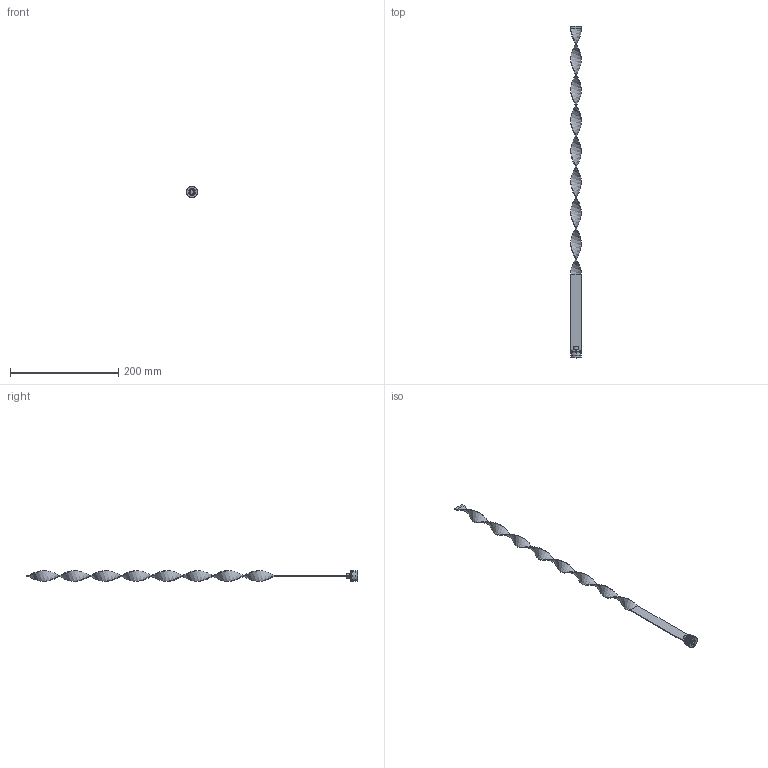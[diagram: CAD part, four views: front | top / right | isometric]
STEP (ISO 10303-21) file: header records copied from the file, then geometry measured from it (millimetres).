
FILE_DESCRIPTION (( 'STEP AP203' ), '1' );
FILE_NAME ('RLS20Fx600-19,5.STEP', '2015-12-10T14:38:06', ( 'Balzi' ), ( '' ), 'SwSTEP 2.0', 'SolidWorks 2015', '' );
FILE_SCHEMA (( 'CONFIG_CONTROL_DESIGN' ));
Length unit declared in the file: millimetre
Products named in the file (1): RLS20Fx600-19,5
Bounding box: 21.5 x 614 x 21.5 mm (x, y, z)
Volume: 22016.3 mm3; surface area: 28306.7 mm2
Topology: 1 solids, 1 shells, 83 faces, 193 edges, 117 vertices
Faces by surface type: plane 35, cone 19, cylinder 17, torus 8, bspline 4
Entity records: 5869 total; most frequent: CARTESIAN_POINT 3904, DIRECTION 406, ORIENTED_EDGE 386, EDGE_CURVE 193, AXIS2_PLACEMENT_3D 151, VERTEX_POINT 117, LINE 104, VECTOR 104
